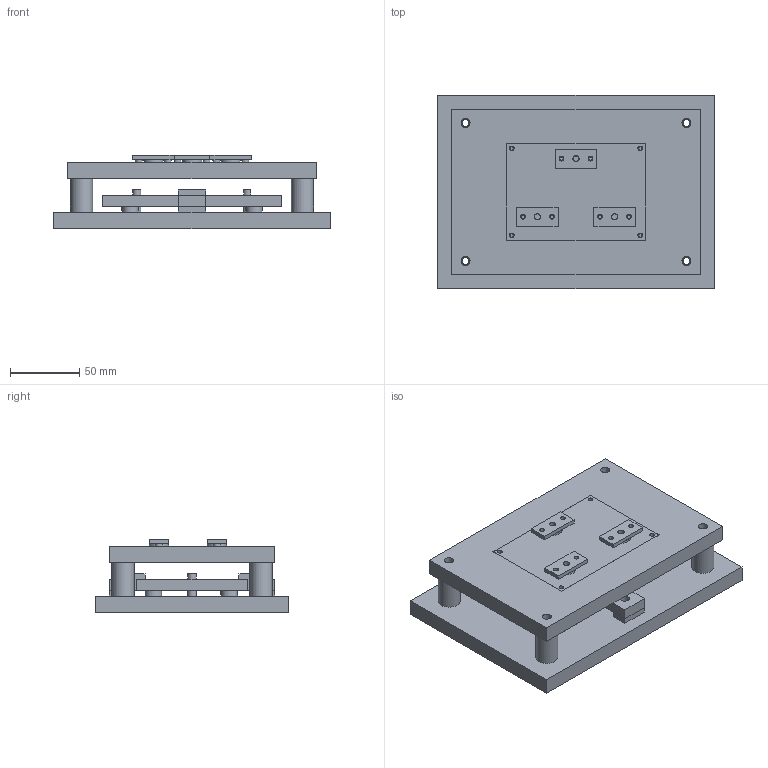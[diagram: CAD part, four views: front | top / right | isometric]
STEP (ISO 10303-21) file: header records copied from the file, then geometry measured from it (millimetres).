
FILE_DESCRIPTION(('Open CASCADE Model'),'2;1');
FILE_NAME('Open CASCADE Shape Model','2026-10-28T05:16:20',('Author'),( 'Open CASCADE'),'Open CASCADE STEP processor 7.8','Open CASCADE 7.8' ,'Unknown');
FILE_SCHEMA(('AUTOMOTIVE_DESIGN { 1 0 10303 214 1 1 1 1 }'));
Length unit declared in the file: millimetre
Products named in the file (24): Open CASCADE STEP translator 7.8 26; Open CASCADE STEP translator 7.8 26.1; Open CASCADE STEP translator 7.8 26.2; Open CASCADE STEP translator 7.8 26.3; Open CASCADE STEP translator 7.8 26.4; Open CASCADE STEP translator 7.8 26.5; Open CASCADE STEP translator 7.8 26.6; Open CASCADE STEP translator 7.8 26.7; Open CASCADE STEP translator 7.8 26.8; Open CASCADE STEP translator 7.8 26.9; Open CASCADE STEP translator 7.8 26.10; Open CASCADE STEP translator 7.8 26.11; Open CASCADE STEP translator 7.8 26.12; Open CASCADE STEP translator 7.8 26.13; Open CASCADE STEP translator 7.8 26.14; Open CASCADE STEP translator 7.8 26.15; Open CASCADE STEP translator 7.8 26.16; Open CASCADE STEP translator 7.8 26.17; Open CASCADE STEP translator 7.8 26.18; Open CASCADE STEP translator 7.8 26.19; Open CASCADE STEP translator 7.8 26.20; Open CASCADE STEP translator 7.8 26.21; Open CASCADE STEP translator 7.8 26.22; Open CASCADE STEP translator 7.8 26.23
Assembly tree (23 placements, depth 2):
  Open CASCADE STEP translator 7.8 26
    Open CASCADE STEP translator 7.8 26.1
    Open CASCADE STEP translator 7.8 26.2
    Open CASCADE STEP translator 7.8 26.3
    Open CASCADE STEP translator 7.8 26.4
    Open CASCADE STEP translator 7.8 26.5
    Open CASCADE STEP translator 7.8 26.6
    Open CASCADE STEP translator 7.8 26.7
    Open CASCADE STEP translator 7.8 26.8
    Open CASCADE STEP translator 7.8 26.9
    Open CASCADE STEP translator 7.8 26.10
    Open CASCADE STEP translator 7.8 26.11
    Open CASCADE STEP translator 7.8 26.12
    Open CASCADE STEP translator 7.8 26.13
    Open CASCADE STEP translator 7.8 26.14
    Open CASCADE STEP translator 7.8 26.15
    Open CASCADE STEP translator 7.8 26.16
    Open CASCADE STEP translator 7.8 26.17
    Open CASCADE STEP translator 7.8 26.18
    Open CASCADE STEP translator 7.8 26.19
    Open CASCADE STEP translator 7.8 26.20
    Open CASCADE STEP translator 7.8 26.21
    Open CASCADE STEP translator 7.8 26.22
    Open CASCADE STEP translator 7.8 26.23
Bounding box: 200 x 140 x 53 mm (x, y, z)
Volume: 686010.7 mm3; surface area: 173393 mm2
Topology: 23 solids, 23 shells, 199 faces, 411 edges, 274 vertices
Faces by surface type: plane 126, cylinder 73
Full cylindrical faces by diameter (mm): 2.5 x10, 3.4 x10, 4.2 x3, 4.5 x3, 5 x16, 5.98 x3, 6.03 x2, 6.5 x6, 10 x6, 12 x3, 14 x3, 16 x4
Entity records: 11178 total; most frequent: DIRECTION 1797, CARTESIAN_POINT 1778, LINE 917, VECTOR 917, ORIENTED_EDGE 822, PCURVE 822, DEFINITIONAL_REPRESENTATION 822, EDGE_CURVE 411
